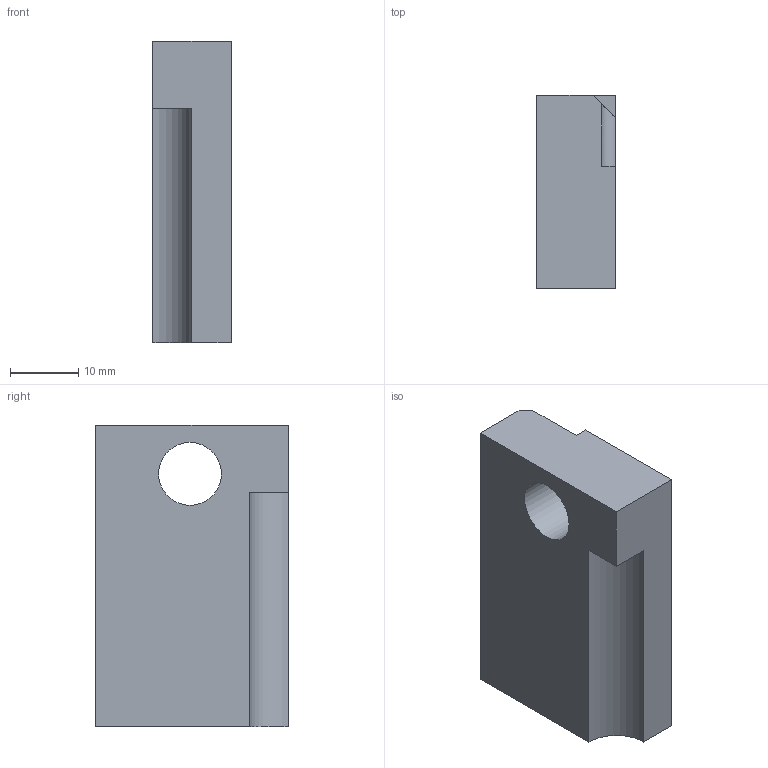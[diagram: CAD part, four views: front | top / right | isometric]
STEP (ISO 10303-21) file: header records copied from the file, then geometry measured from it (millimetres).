
FILE_DESCRIPTION(('Open CASCADE Model'),'2;1');
FILE_NAME('Open CASCADE Shape Model','2021-04-29T14:55:24',('Author'),( 'Open CASCADE'),'Open CASCADE STEP processor 7.4','Open CASCADE 7.4' ,'Unknown');
FILE_SCHEMA(('AUTOMOTIVE_DESIGN { 1 0 10303 214 1 1 1 1 }'));
Length unit declared in the file: millimetre
Products named in the file (1): Open CASCADE STEP translator 7.4 935
Bounding box: 11.5 x 28.21 x 44.11 mm (x, y, z)
Volume: 12136 mm3; surface area: 4503.1 mm2
Topology: 1 solids, 1 shells, 20 faces, 51 edges, 34 vertices
Faces by surface type: plane 17, cylinder 3
Full cylindrical faces by diameter (mm): 9.202 x1
Entity records: 1287 total; most frequent: CARTESIAN_POINT 225, DIRECTION 198, LINE 140, VECTOR 140, ORIENTED_EDGE 102, PCURVE 102, DEFINITIONAL_REPRESENTATION 102, EDGE_CURVE 51
